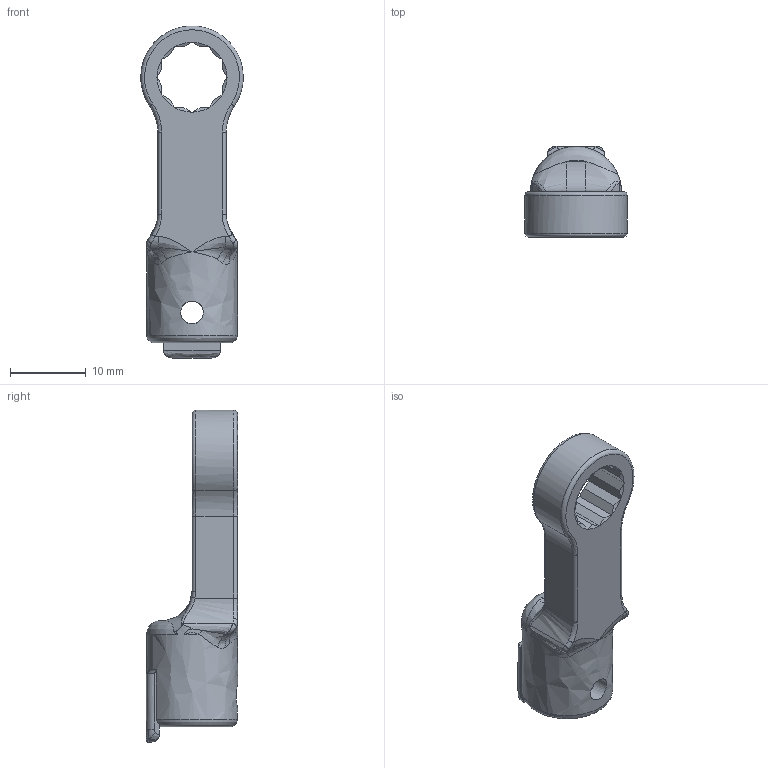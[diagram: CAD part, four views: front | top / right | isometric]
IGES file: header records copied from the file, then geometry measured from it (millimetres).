
Global section: file name: RH8DX8; native system: Autodesk Inventor 2016; preprocessor: unknown; author: Q600; date: 20151110.153849; units: millimetre
Bounding box: 13.49 x 12 x 43.75 mm (x, y, z)
Volume: 2399.7 mm3; surface area: 1949.9 mm2
Topology: 1 solids, 1 shells, 143 faces, 394 edges, 244 vertices
Faces by surface type: bspline 143
